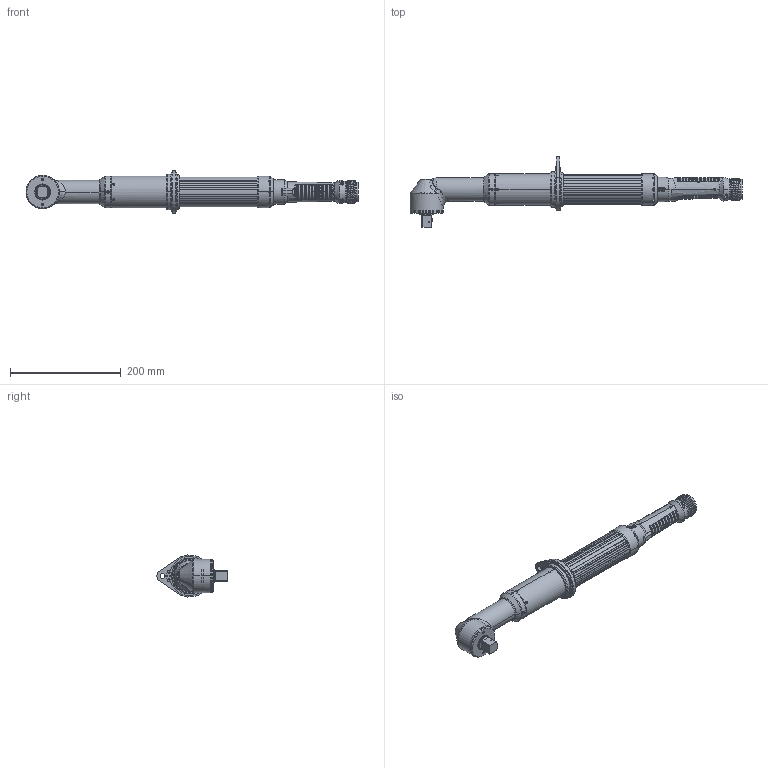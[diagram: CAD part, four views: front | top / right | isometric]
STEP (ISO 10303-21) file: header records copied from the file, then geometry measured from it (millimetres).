
FILE_DESCRIPTION((''),'2;1');
FILE_NAME('6151653890_CADFILE_ASM','2012-09-18T',('greextsd'),(''),'PRO/ENGINEER BY PARAMETRIC TECHNOLOGY CORPORATION, 2010330','PRO/ENGINEER BY PARAMETRIC TECHNOLOGY CORPORATION, 2010330','');
FILE_SCHEMA(('CONFIG_CONTROL_DESIGN'));
Products named in the file (20): 6156731370; 6155955100; 6156731480; 6155710540; 6155651790; 6155952740; 6157850710; 6155952740_ASM; 6156662280; 6156730890; 6155210902; 6156370690; 6156250670; 6155210900_ASM; 6153962071_ASM; 6156731360; 6153968140_ASM; 688_21; BE20320_SW0001; 6151653890_CADFILE_ASM
Assembly tree (20 placements, depth 5):
  6151653890_CADFILE_ASM
    6156731370
    6155955100
    6156731480
    6155710540
    6155651790
    6153968140_ASM
      6153962071_ASM
        6155952740_ASM
          6155952740
          6157850710
        6156662280
        6156730890
        6155210900_ASM
          6155210902
          6156370690
          6156250670
      6156731360
    688_21  x2
    BE20320_SW0001
Bounding box: 598.6 x 127.2 x 75.75 mm (x, y, z)
Volume: 356778.3 mm3; surface area: 271580.8 mm2
Topology: 41 solids, 49 shells, 3600 faces, 9127 edges, 5772 vertices
Faces by surface type: plane 1701, cylinder 899, bspline 618, cone 170, torus 136, extrusion 33, sphere 29, revolution 14
Entity records: 155816 total; most frequent: CARTESIAN_POINT 76663, ORIENTED_EDGE 18054, DIRECTION 13478, EDGE_CURVE 9043, VERTEX_POINT 5740, AXIS2_PLACEMENT_3D 4914, EDGE_LOOP 3941, VECTOR 3636
